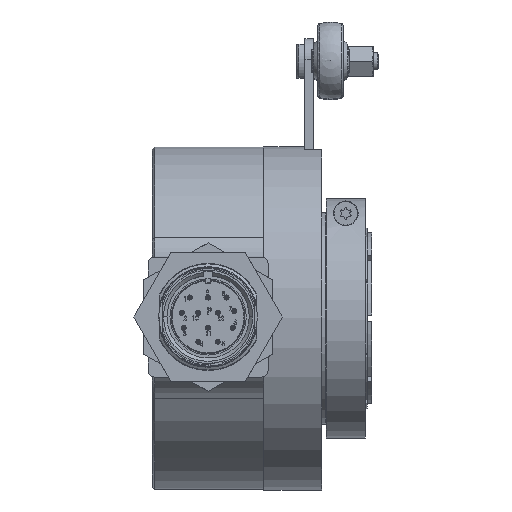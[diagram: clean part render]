
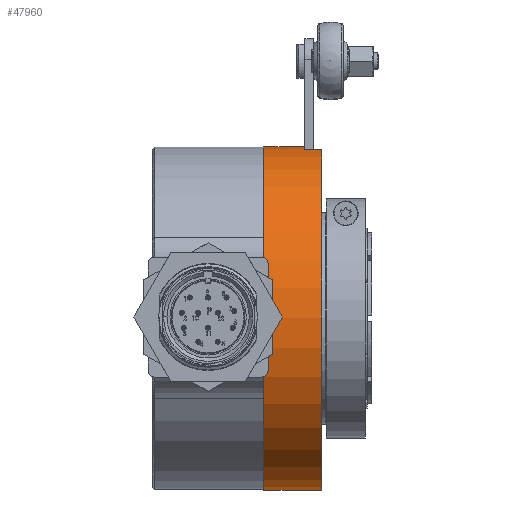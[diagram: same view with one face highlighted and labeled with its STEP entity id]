
A CAD part, top view. The second image highlights one B-rep face of the part: STEP entity #47960.
In plain terms, the highlighted cylindrical face has radius 40.075 mm (diameter 80.15 mm), a partial arc.
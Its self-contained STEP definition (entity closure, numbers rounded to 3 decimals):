
#36 = CYLINDRICAL_SURFACE ( 'NONE', #72351, 40.075 ) ;
#2678 = VERTEX_POINT ( 'NONE', #61125 ) ;
#4684 = DIRECTION ( 'NONE',  ( -1., 0., 0. ) ) ;
#6168 = DIRECTION ( 'NONE',  ( -1., 0., 0. ) ) ;
#6474 = CIRCLE ( 'NONE', #60131, 40.075 ) ;
#7738 = DIRECTION ( 'NONE',  ( -1., 0., 0. ) ) ;
#7743 = ORIENTED_EDGE ( 'NONE', *, *, #23118, .T. ) ;
#11088 = AXIS2_PLACEMENT_3D ( 'NONE', #19842, #7738, #73328 ) ;
#11264 = DIRECTION ( 'NONE',  ( -1., 0., 0. ) ) ;
#13000 = VECTOR ( 'NONE', #74665, 1000. ) ;
#16108 = CIRCLE ( 'NONE', #11088, 40.075 ) ;
#16737 = DIRECTION ( 'NONE',  ( 0., 1., 0. ) ) ;
#17216 = EDGE_CURVE ( 'NONE', #64789, #2678, #21882, .T. ) ;
#18845 = ORIENTED_EDGE ( 'NONE', *, *, #52684, .F. ) ;
#19842 = CARTESIAN_POINT ( 'NONE',  ( 13.5, 0., 0. ) ) ;
#21882 = LINE ( 'NONE', #45714, #68316 ) ;
#21996 = ORIENTED_EDGE ( 'NONE', *, *, #69758, .T. ) ;
#22724 = FACE_OUTER_BOUND ( 'NONE', #25346, .T. ) ;
#23118 = EDGE_CURVE ( 'NONE', #53618, #64789, #6474, .T. ) ;
#23878 = DIRECTION ( 'NONE',  ( 0., 1., 0. ) ) ;
#25346 = EDGE_LOOP ( 'NONE', ( #57290, #21996, #47969, #7743, #30972, #18845 ) ) ;
#27325 = CARTESIAN_POINT ( 'NONE',  ( 0., -40.075, 0. ) ) ;
#27458 = EDGE_CURVE ( 'NONE', #40817, #60715, #50115, .T. ) ;
#28487 = CARTESIAN_POINT ( 'NONE',  ( 0., 0., 0. ) ) ;
#30972 = ORIENTED_EDGE ( 'NONE', *, *, #17216, .T. ) ;
#32800 = CARTESIAN_POINT ( 'NONE',  ( 13.5, 39.468, 6.95 ) ) ;
#35890 = CARTESIAN_POINT ( 'NONE',  ( 9.5, 0., 0. ) ) ;
#38797 = VERTEX_POINT ( 'NONE', #32800 ) ;
#40817 = VERTEX_POINT ( 'NONE', #58657 ) ;
#45216 = CARTESIAN_POINT ( 'NONE',  ( 9.5, 40.075, 0. ) ) ;
#45313 = AXIS2_PLACEMENT_3D ( 'NONE', #28487, #11264, #16737 ) ;
#45616 = CARTESIAN_POINT ( 'NONE',  ( 9.5, 39.468, 6.95 ) ) ;
#45714 = CARTESIAN_POINT ( 'NONE',  ( -12.775, 40.075, 0. ) ) ;
#46535 = CARTESIAN_POINT ( 'NONE',  ( -12.775, 0., 0. ) ) ;
#47960 = ADVANCED_FACE ( 'NONE', ( #22724 ), #36, .T. ) ;
#47969 = ORIENTED_EDGE ( 'NONE', *, *, #56580, .T. ) ;
#50115 = LINE ( 'NONE', #73919, #13000 ) ;
#50593 = LINE ( 'NONE', #69321, #61832 ) ;
#52684 = EDGE_CURVE ( 'NONE', #60715, #2678, #74016, .T. ) ;
#52785 = DIRECTION ( 'NONE',  ( -1., 0., 0. ) ) ;
#53618 = VERTEX_POINT ( 'NONE', #45616 ) ;
#56580 = EDGE_CURVE ( 'NONE', #38797, #53618, #50593, .T. ) ;
#57290 = ORIENTED_EDGE ( 'NONE', *, *, #27458, .F. ) ;
#58657 = CARTESIAN_POINT ( 'NONE',  ( 13.5, -40.075, 0. ) ) ;
#60090 = DIRECTION ( 'NONE',  ( 0., 1., 0. ) ) ;
#60131 = AXIS2_PLACEMENT_3D ( 'NONE', #35890, #6168, #60090 ) ;
#60715 = VERTEX_POINT ( 'NONE', #27325 ) ;
#61125 = CARTESIAN_POINT ( 'NONE',  ( 0., 40.075, 0. ) ) ;
#61832 = VECTOR ( 'NONE', #62698, 1000. ) ;
#62698 = DIRECTION ( 'NONE',  ( -1., 0., 0. ) ) ;
#64789 = VERTEX_POINT ( 'NONE', #45216 ) ;
#68316 = VECTOR ( 'NONE', #4684, 1000. ) ;
#69321 = CARTESIAN_POINT ( 'NONE',  ( -12.775, 39.468, 6.95 ) ) ;
#69758 = EDGE_CURVE ( 'NONE', #40817, #38797, #16108, .T. ) ;
#72351 = AXIS2_PLACEMENT_3D ( 'NONE', #46535, #52785, #23878 ) ;
#73328 = DIRECTION ( 'NONE',  ( 0., 1., 0. ) ) ;
#73919 = CARTESIAN_POINT ( 'NONE',  ( -12.775, -40.075, 0. ) ) ;
#74016 = CIRCLE ( 'NONE', #45313, 40.075 ) ;
#74665 = DIRECTION ( 'NONE',  ( -1., 0., 0. ) ) ;
